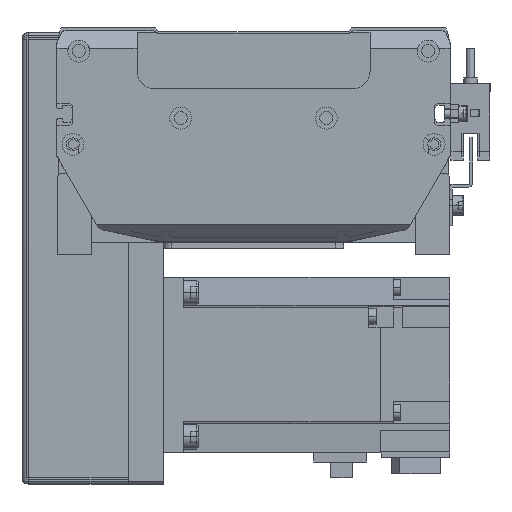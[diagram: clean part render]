
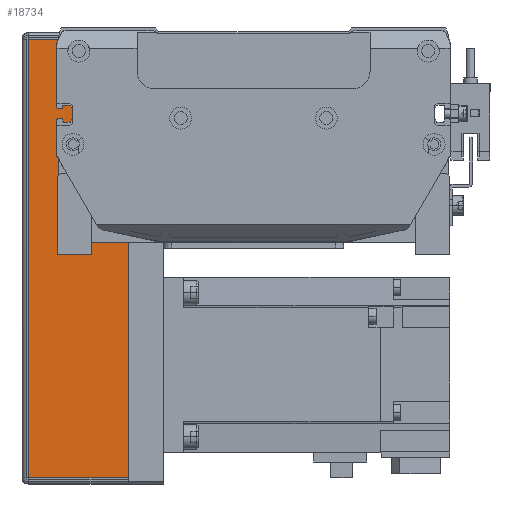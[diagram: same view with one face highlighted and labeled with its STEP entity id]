
A CAD part, front view. The second image highlights one B-rep face of the part: STEP entity #18734.
In plain terms, the highlighted planar face has unit normal (0, -1, 0) as drawn and (0, 1, 0) by its records, which use the part's own axes.
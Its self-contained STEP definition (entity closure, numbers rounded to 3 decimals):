
#1726 = PLANE ( 'NONE',  #18034 ) ;
#2014 = DIRECTION ( 'NONE',  ( 0., -1., 0. ) ) ;
#2198 = EDGE_CURVE ( 'NONE', #41390, #11536, #12027, .T. ) ;
#2573 = DIRECTION ( 'NONE',  ( 0., 0., -1. ) ) ;
#5072 = EDGE_LOOP ( 'NONE', ( #20342, #28266, #11091, #40100 ) ) ;
#5439 = CARTESIAN_POINT ( 'NONE',  ( -162.166, 37., 36.5 ) ) ;
#8600 = CARTESIAN_POINT ( 'NONE',  ( -162.166, 37., 0. ) ) ;
#11091 = ORIENTED_EDGE ( 'NONE', *, *, #32682, .T. ) ;
#11141 = FACE_OUTER_BOUND ( 'NONE', #5072, .T. ) ;
#11536 = VERTEX_POINT ( 'NONE', #19714 ) ;
#11614 = DIRECTION ( 'NONE',  ( -1., 0., 0. ) ) ;
#12027 = LINE ( 'NONE', #41718, #41309 ) ;
#14747 = VERTEX_POINT ( 'NONE', #30657 ) ;
#15058 = VECTOR ( 'NONE', #30461, 1000. ) ;
#18034 = AXIS2_PLACEMENT_3D ( 'NONE', #5439, #2014, #35011 ) ;
#18734 = ADVANCED_FACE ( 'NONE', ( #11141 ), #1726, .F. ) ;
#19289 = VERTEX_POINT ( 'NONE', #28490 ) ;
#19714 = CARTESIAN_POINT ( 'NONE',  ( -34.793, 37., 0. ) ) ;
#20342 = ORIENTED_EDGE ( 'NONE', *, *, #2198, .F. ) ;
#22029 = LINE ( 'NONE', #38292, #37424 ) ;
#23481 = EDGE_CURVE ( 'NONE', #19289, #11536, #42563, .T. ) ;
#27614 = CARTESIAN_POINT ( 'NONE',  ( -37., 37., 34.263 ) ) ;
#28183 = VECTOR ( 'NONE', #11614, 1000. ) ;
#28266 = ORIENTED_EDGE ( 'NONE', *, *, #36318, .F. ) ;
#28490 = CARTESIAN_POINT ( 'NONE',  ( 115.793, 37., 0. ) ) ;
#30402 = CARTESIAN_POINT ( 'NONE',  ( -34.793, 37., 34.263 ) ) ;
#30461 = DIRECTION ( 'NONE',  ( -1., 0., 0. ) ) ;
#30657 = CARTESIAN_POINT ( 'NONE',  ( 115.793, 37., 34.263 ) ) ;
#32682 = EDGE_CURVE ( 'NONE', #14747, #19289, #22029, .T. ) ;
#33059 = LINE ( 'NONE', #27614, #15058 ) ;
#34521 = DIRECTION ( 'NONE',  ( 0., 0., -1. ) ) ;
#35011 = DIRECTION ( 'NONE',  ( 0., 0., -1. ) ) ;
#36318 = EDGE_CURVE ( 'NONE', #14747, #41390, #33059, .T. ) ;
#37424 = VECTOR ( 'NONE', #2573, 1000. ) ;
#38292 = CARTESIAN_POINT ( 'NONE',  ( 115.793, 37., 36.5 ) ) ;
#40100 = ORIENTED_EDGE ( 'NONE', *, *, #23481, .T. ) ;
#41309 = VECTOR ( 'NONE', #34521, 1000. ) ;
#41390 = VERTEX_POINT ( 'NONE', #30402 ) ;
#41718 = CARTESIAN_POINT ( 'NONE',  ( -34.793, 37., 35. ) ) ;
#42563 = LINE ( 'NONE', #8600, #28183 ) ;
